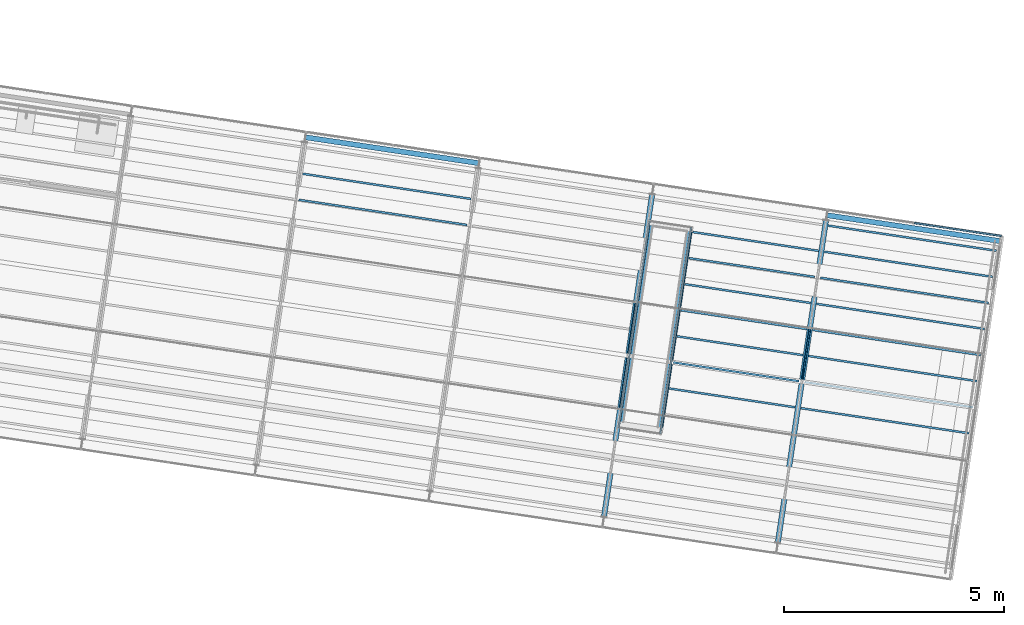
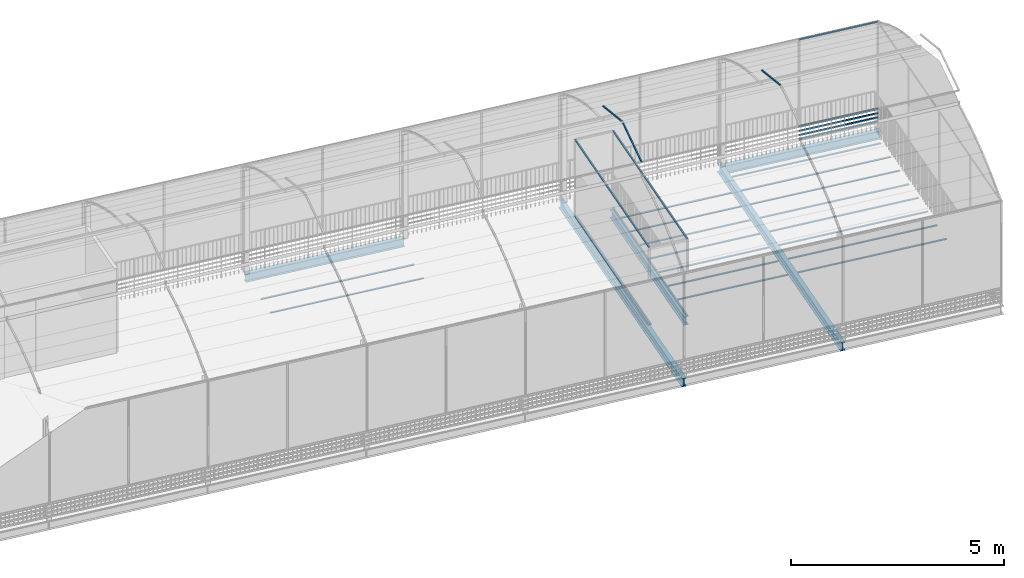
# One storey, part 13 of 34: 23 beams, 13 members, 1 element without a shape of its own.
"""IFC4 building model written with IfcOpenShell, lengths in metres."""

from ifc_helpers import new_model, si_unit, direction, frame, origin_with_axes, place, context, subcontext, project, spatial, polyline, rectangle, i_section, outline, extrude, material, material_profile, profile_set, profile_usage, type_object, element, aggregate, save


model = new_model("IFC4")

# Units and contexts
model_context = context("Model", 3, precision=1e-05, world=origin_with_axes(), true_north=direction((0.0, 1.0)))
body_context = subcontext(model_context, "Body", "Model", "MODEL_VIEW")
ifc_project = project(units=[si_unit("VOLUMEUNIT", "CUBIC_METRE"), si_unit("LENGTHUNIT", "METRE"), si_unit("AREAUNIT", "SQUARE_METRE")], contexts=[model_context])

# Site, building, storey
site_placement = place(None, origin_with_axes())
site = spatial("IfcSite", under=ifc_project, at=site_placement, Name="Lares · Rua das Mercês · artigo 4771")
building_placement = place(site_placement, frame((12.0, 10.2, 13.9), z_axis=(0.0, 0.0, 1.0), x_axis=(0.989015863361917, -0.147809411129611, 0.0)))
building = spatial("IfcBuilding", under=site, at=building_placement, Name="Casa Sobreposta")
storey_placement = place(building_placement, frame((0.0, 0.0, 3.24), z_axis=(0.0, 0.0, 1.0), x_axis=(1.0, 0.0, 0.0)))
storey = spatial("IfcBuildingStorey", under=building, at=storey_placement, Name="01 · Jardim de inverno", Elevation=17.14)

# Beams
ifc_material_1 = material(Name="Aço pintado / Stahl lackiert", Category="steel")
ifc_material_profile_1 = material_profile(ifc_material_1, i_section(OverallWidth=0.12, OverallDepth=0.24, WebThickness=0.0062, FlangeThickness=0.0098))
ifc_profile_set_1 = profile_set([ifc_material_profile_1], Name="IPE240")
ifc_profile_usage_1 = profile_usage(ifc_profile_set_1)
beam_type = type_object("IfcBeamType", Name="IPE240 / steel", PredefinedType="NOTDEFINED", material=ifc_profile_set_1)
beam_1_placement = place(storey_placement, frame((16.0, 6.28, -0.152), z_axis=(1.0, 0.0, 0.0), x_axis=(0.0, -1.0, 0.0)))
element("IfcBeam", 1, at=beam_1_placement, inside=storey, type_object=beam_type, material=ifc_profile_usage_1, Name="Viga longitudinal 16 / 6.28", context=body_context, shape_type="SweptSolid", body=[
    extrude(i_section(OverallWidth=0.12, OverallDepth=0.24, WebThickness=0.0062, FlangeThickness=0.0098), origin_with_axes(), (0.0, 0.0, 1.0), 4.0),
])
ifc_profile_usage_2 = profile_usage(ifc_profile_set_1)
beam_2_placement = place(storey_placement, frame((28.0, 6.28, -0.152), z_axis=(1.0, 0.0, 0.0), x_axis=(0.0, -1.0, 0.0)))
element("IfcBeam", 2, at=beam_2_placement, inside=storey, type_object=beam_type, material=ifc_profile_usage_2, Name="Viga longitudinal 28 / 6.28", context=body_context, shape_type="SweptSolid", body=[
    extrude(i_section(OverallWidth=0.12, OverallDepth=0.24, WebThickness=0.0062, FlangeThickness=0.0098), origin_with_axes(), (0.0, 0.0, 1.0), 4.0),
])
ifc_profile_usage_3 = profile_usage(ifc_profile_set_1)
beam_3_placement = place(storey_placement, frame((24.0, -1.5, -0.152), z_axis=(0.0, 1.0, 0.0), x_axis=(1.0, 0.0, 0.0)))
element("IfcBeam", 3, at=beam_3_placement, inside=storey, type_object=beam_type, material=ifc_profile_usage_3, Name="Viga transversal eixo 24", context=body_context, shape_type="SweptSolid", body=[
    extrude(i_section(OverallWidth=0.12, OverallDepth=0.24, WebThickness=0.0062, FlangeThickness=0.0098), origin_with_axes(), (0.0, 0.0, 1.0), 7.9),
])
ifc_profile_usage_4 = profile_usage(ifc_profile_set_1)
beam_4_placement = place(storey_placement, frame((28.0, -1.5, -0.152), z_axis=(0.0, 1.0, 0.0), x_axis=(1.0, 0.0, 0.0)))
element("IfcBeam", 4, at=beam_4_placement, inside=storey, type_object=beam_type, material=ifc_profile_usage_4, Name="Viga transversal eixo 28", context=body_context, shape_type="SweptSolid", body=[
    extrude(i_section(OverallWidth=0.12, OverallDepth=0.24, WebThickness=0.0062, FlangeThickness=0.0098), origin_with_axes(), (0.0, 0.0, 1.0), 7.9),
])
ifc_profile_usage_5 = profile_usage(ifc_profile_set_1)
beam_5_placement = place(storey_placement, frame((24.05, 0.8275, -0.152), z_axis=(0.0, 1.0, 0.0), x_axis=(1.0, 0.0, 0.0)))
element("IfcBeam", 5, at=beam_5_placement, inside=storey, type_object=beam_type, material=ifc_profile_usage_5, Name="Longarina do vão 2", context=body_context, shape_type="SweptSolid", body=[
    extrude(i_section(OverallWidth=0.12, OverallDepth=0.24, WebThickness=0.0062, FlangeThickness=0.0098), origin_with_axes(), (0.0, 0.0, 1.0), 4.745),
])
ifc_profile_usage_6 = profile_usage(ifc_profile_set_1)
beam_6_placement = place(storey_placement, frame((24.97, 0.8275, -0.152), z_axis=(0.0, 1.0, 0.0), x_axis=(1.0, 0.0, 0.0)))
element("IfcBeam", 6, at=beam_6_placement, inside=storey, type_object=beam_type, material=ifc_profile_usage_6, Name="Longarina do vão 2", context=body_context, shape_type="SweptSolid", body=[
    extrude(i_section(OverallWidth=0.12, OverallDepth=0.24, WebThickness=0.0062, FlangeThickness=0.0098), origin_with_axes(), (0.0, 0.0, 1.0), 4.745),
])

# Members
ifc_material_profile_2 = material_profile(ifc_material_1, rectangle(XDim=0.035, YDim=0.035))
ifc_profile_set_2 = profile_set([ifc_material_profile_2], Name="R0.035")
ifc_profile_usage_7 = profile_usage(ifc_profile_set_2)
member_type = type_object("IfcMemberType", Name="R0.035 / steel", PredefinedType="NOTDEFINED", material=ifc_profile_set_2)
member_1_placement = place(storey_placement, frame((30.0, 6.4, 0.5), z_axis=(1.0, 0.0, 0.0), x_axis=(0.0, -1.0, 0.0)))
element("IfcMember", 7, at=member_1_placement, inside=storey, type_object=member_type, material=ifc_profile_usage_7, Name="Estufa norte 16 · travessa", context=body_context, shape_type="SweptSolid", body=[
    extrude(rectangle(XDim=0.035, YDim=0.035), origin_with_axes(), (0.0, 0.0, 1.0), 2.0),
])
ifc_profile_usage_8 = profile_usage(ifc_profile_set_2)
member_2_placement = place(storey_placement, frame((30.0, 6.4, 2.98), z_axis=(1.0, 0.0, 0.0), x_axis=(0.0, -1.0, 0.0)))
element("IfcMember", 8, at=member_2_placement, inside=storey, type_object=member_type, material=ifc_profile_usage_8, Name="Estufa norte 16 · travessa", context=body_context, shape_type="SweptSolid", body=[
    extrude(rectangle(XDim=0.035, YDim=0.035), origin_with_axes(), (0.0, 0.0, 1.0), 2.0),
])
ifc_profile_usage_9 = profile_usage(ifc_profile_set_2)
member_3_placement = place(storey_placement, frame((30.0, 6.4, 0.12), z_axis=(1.0, 0.0, 0.0), x_axis=(0.0, -1.0, 0.0)))
element("IfcMember", 9, at=member_3_placement, inside=storey, type_object=member_type, material=ifc_profile_usage_9, Name="Entrada de ar norte 16", context=body_context, shape_type="SweptSolid", body=[
    extrude(rectangle(XDim=0.035, YDim=0.035), origin_with_axes(), (0.0, 0.0, 1.0), 2.0),
])
ifc_profile_usage_10 = profile_usage(ifc_profile_set_2)
member_4_placement = place(storey_placement, frame((30.0, 6.4, 0.24), z_axis=(1.0, 0.0, 0.0), x_axis=(0.0, -1.0, 0.0)))
element("IfcMember", 10, at=member_4_placement, inside=storey, type_object=member_type, material=ifc_profile_usage_10, Name="Entrada de ar norte 16", context=body_context, shape_type="SweptSolid", body=[
    extrude(rectangle(XDim=0.035, YDim=0.035), origin_with_axes(), (0.0, 0.0, 1.0), 2.0),
])
ifc_profile_usage_11 = profile_usage(ifc_profile_set_2)
member_5_placement = place(storey_placement, frame((30.0, 6.4, 0.36), z_axis=(1.0, 0.0, 0.0), x_axis=(0.0, -1.0, 0.0)))
element("IfcMember", 11, at=member_5_placement, inside=storey, type_object=member_type, material=ifc_profile_usage_11, Name="Entrada de ar norte 16", context=body_context, shape_type="SweptSolid", body=[
    extrude(rectangle(XDim=0.035, YDim=0.035), origin_with_axes(), (0.0, 0.0, 1.0), 2.0),
])
ifc_profile_usage_12 = profile_usage(ifc_profile_set_2)
member_6_placement = place(storey_placement, frame((30.0, 6.4, 0.48), z_axis=(1.0, 0.0, 0.0), x_axis=(0.0, -1.0, 0.0)))
element("IfcMember", 12, at=member_6_placement, inside=storey, type_object=member_type, material=ifc_profile_usage_12, Name="Entrada de ar norte 16", context=body_context, shape_type="SweptSolid", body=[
    extrude(rectangle(XDim=0.035, YDim=0.035), origin_with_axes(), (0.0, 0.0, 1.0), 2.0),
])

# Roof, members
ifc_material_2 = material(Name="Vidro / Normalglas", Category="glass")
roof_placement = place(storey_placement, frame((0.0, 0.0, -3.24), z_axis=(0.0, 0.0, 1.0), x_axis=(1.0, 0.0, 0.0)))
roof = element("IfcRoof", 13, at=roof_placement, inside=storey, material=ifc_material_2, Name="Cobertura translúcida da estufa", PredefinedType="BARREL_ROOF")
ifc_profile_usage_13 = profile_usage(ifc_profile_set_2)
member_7_placement = place(roof_placement, frame((24.0, 1.22042020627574, 7.62067689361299), z_axis=(0.0, 0.960073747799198, 0.279747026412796), x_axis=(1.0, 0.0, 0.0)))
member_7 = element("IfcMember", 14, at=member_7_placement, type_object=member_type, material=ifc_profile_usage_13, Name="Arco estufa 24/7", context=body_context, shape_type="SweptSolid", body=[
    extrude(rectangle(XDim=0.035, YDim=0.035), origin_with_axes(), (0.0, 0.0, 1.0), 1.23148937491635),
])
ifc_profile_usage_14 = profile_usage(ifc_profile_set_2)
member_8_placement = place(roof_placement, frame((24.0, 2.49770027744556, 7.96518238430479), z_axis=(0.0, 0.96007374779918, -0.279747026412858), x_axis=(1.0, 0.0, 0.0)))
member_8 = element("IfcMember", 15, at=member_8_placement, type_object=member_type, material=ifc_profile_usage_14, Name="Arco estufa 24/9", context=body_context, shape_type="SweptSolid", body=[
    extrude(rectangle(XDim=0.035, YDim=0.035), origin_with_axes(), (0.0, 0.0, 1.0), 1.23148937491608),
])
ifc_profile_usage_15 = profile_usage(ifc_profile_set_2)
member_9_placement = place(roof_placement, frame((28.0, 2.49770027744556, 7.96518238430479), z_axis=(0.0, 0.96007374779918, -0.279747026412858), x_axis=(1.0, 0.0, 0.0)))
member_9 = element("IfcMember", 16, at=member_9_placement, type_object=member_type, material=ifc_profile_usage_15, Name="Arco estufa 28/9", context=body_context, shape_type="SweptSolid", body=[
    extrude(rectangle(XDim=0.035, YDim=0.035), origin_with_axes(), (0.0, 0.0, 1.0), 1.23148937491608),
])
aggregate(roof, [member_7, member_8, member_9])

# Members
ifc_profile_usage_16 = profile_usage(ifc_profile_set_2)
member_10_placement = place(storey_placement, frame((24.03, 0.8, 0.0), z_axis=(0.0, 1.0, 0.0), x_axis=(1.0, 0.0, 0.0)))
element("IfcMember", 17, at=member_10_placement, inside=storey, type_object=member_type, material=ifc_profile_usage_16, Name="Caixa térmica 2 · west · travessa", context=body_context, shape_type="SweptSolid", body=[
    extrude(rectangle(XDim=0.035, YDim=0.035), origin_with_axes(), (0.0, 0.0, 1.0), 4.75),
])
ifc_profile_usage_17 = profile_usage(ifc_profile_set_2)
member_11_placement = place(storey_placement, frame((24.03, 0.8, 2.2), z_axis=(0.0, 1.0, 0.0), x_axis=(1.0, 0.0, 0.0)))
element("IfcMember", 18, at=member_11_placement, inside=storey, type_object=member_type, material=ifc_profile_usage_17, Name="Caixa térmica 2 · west · travessa", context=body_context, shape_type="SweptSolid", body=[
    extrude(rectangle(XDim=0.035, YDim=0.035), origin_with_axes(), (0.0, 0.0, 1.0), 4.75),
])
ifc_profile_usage_18 = profile_usage(ifc_profile_set_2)
member_12_placement = place(storey_placement, frame((24.99, 0.8, 0.0), z_axis=(0.0, 1.0, 0.0), x_axis=(1.0, 0.0, 0.0)))
element("IfcMember", 19, at=member_12_placement, inside=storey, type_object=member_type, material=ifc_profile_usage_18, Name="Caixa térmica 2 · east · travessa", context=body_context, shape_type="SweptSolid", body=[
    extrude(rectangle(XDim=0.035, YDim=0.035), origin_with_axes(), (0.0, 0.0, 1.0), 4.75),
])
ifc_profile_usage_19 = profile_usage(ifc_profile_set_2)
member_13_placement = place(storey_placement, frame((24.99, 0.8, 2.2), z_axis=(0.0, 1.0, 0.0), x_axis=(1.0, 0.0, 0.0)))
element("IfcMember", 20, at=member_13_placement, inside=storey, type_object=member_type, material=ifc_profile_usage_19, Name="Caixa térmica 2 · east · travessa", context=body_context, shape_type="SweptSolid", body=[
    extrude(rectangle(XDim=0.035, YDim=0.035), origin_with_axes(), (0.0, 0.0, 1.0), 4.75),
])

# Beams
ifc_material_3 = material(Name="Madeira / Bauholz", Category="wood")
ifc_material_profile_3 = material_profile(ifc_material_3, outline(polyline([(0.022225, -0.12), (0.022225, -0.092), (-0.022225, -0.092), (-0.022225, -0.12), (0.022225, -0.12)])))
ifc_material_4 = material(Name="OSB", Category="wood")
ifc_material_profile_4 = material_profile(ifc_material_4, outline(polyline([(0.0047625, -0.092), (0.0047625, 0.092), (-0.0047625, 0.092), (-0.0047625, -0.092), (0.0047625, -0.092)])))
ifc_material_profile_5 = material_profile(ifc_material_3, outline(polyline([(0.022225, 0.092), (0.022225, 0.12), (-0.022225, 0.12), (-0.022225, 0.092), (0.022225, 0.092)])))
ifc_profile_set_3 = profile_set([ifc_material_profile_3, ifc_material_profile_4, ifc_material_profile_5], Name="TJI240 · madeira / OSB")
ifc_profile_usage_20 = profile_usage(ifc_profile_set_3)
beam_7_placement = place(storey_placement, frame((25.04, 1.85, -0.152), z_axis=(1.0, 0.0, 0.0), x_axis=(0.0, 1.0, 0.0)))
element("IfcBeam", 21, at=beam_7_placement, inside=storey, material=ifc_profile_usage_20, Name="TJI240 · 25.040 / 1.85", context=body_context, shape_type="SweptSolid", body=[
    extrude(outline(polyline([(0.022225, -0.12), (0.022225, -0.092), (-0.022225, -0.092), (-0.022225, -0.12), (0.022225, -0.12)])), origin_with_axes(), (0.0, 0.0, 1.0), 2.895),
    extrude(outline(polyline([(0.022225, -0.12), (0.022225, -0.092), (-0.022225, -0.092), (-0.022225, -0.12), (0.022225, -0.12)])), origin_with_axes(), (0.0, 0.0, 1.0), 2.895),
    extrude(outline(polyline([(0.022225, -0.12), (0.022225, -0.092), (-0.022225, -0.092), (-0.022225, -0.12), (0.022225, -0.12)])), origin_with_axes(), (0.0, 0.0, 1.0), 2.895),
])
ifc_material_profile_6 = material_profile(ifc_material_3, outline(polyline([(0.022225, -0.12), (0.022225, -0.092), (-0.022225, -0.092), (-0.022225, -0.12), (0.022225, -0.12)])))
ifc_material_profile_7 = material_profile(ifc_material_4, outline(polyline([(0.0047625, -0.092), (0.0047625, 0.092), (-0.0047625, 0.092), (-0.0047625, -0.092), (0.0047625, -0.092)])))
ifc_material_profile_8 = material_profile(ifc_material_3, outline(polyline([(0.022225, 0.092), (0.022225, 0.12), (-0.022225, 0.12), (-0.022225, 0.092), (0.022225, 0.092)])))
ifc_profile_set_4 = profile_set([ifc_material_profile_6, ifc_material_profile_7, ifc_material_profile_8], Name="TJI240 · madeira / OSB")
ifc_profile_usage_21 = profile_usage(ifc_profile_set_4)
beam_8_placement = place(storey_placement, frame((28.065, 1.85, -0.152), z_axis=(1.0, 0.0, 0.0), x_axis=(0.0, 1.0, 0.0)))
element("IfcBeam", 22, at=beam_8_placement, inside=storey, material=ifc_profile_usage_21, Name="TJI240 · 28.065 / 1.85", context=body_context, shape_type="SweptSolid", body=[
    extrude(outline(polyline([(0.022225, -0.12), (0.022225, -0.092), (-0.022225, -0.092), (-0.022225, -0.12), (0.022225, -0.12)])), origin_with_axes(), (0.0, 0.0, 1.0), 3.87),
    extrude(outline(polyline([(0.022225, -0.12), (0.022225, -0.092), (-0.022225, -0.092), (-0.022225, -0.12), (0.022225, -0.12)])), origin_with_axes(), (0.0, 0.0, 1.0), 3.87),
    extrude(outline(polyline([(0.022225, -0.12), (0.022225, -0.092), (-0.022225, -0.092), (-0.022225, -0.12), (0.022225, -0.12)])), origin_with_axes(), (0.0, 0.0, 1.0), 3.87),
])
ifc_material_profile_9 = material_profile(ifc_material_3, outline(polyline([(0.022225, -0.12), (0.022225, -0.092), (-0.022225, -0.092), (-0.022225, -0.12), (0.022225, -0.12)])))
ifc_material_profile_10 = material_profile(ifc_material_4, outline(polyline([(0.0047625, -0.092), (0.0047625, 0.092), (-0.0047625, 0.092), (-0.0047625, -0.092), (0.0047625, -0.092)])))
ifc_material_profile_11 = material_profile(ifc_material_3, outline(polyline([(0.022225, 0.092), (0.022225, 0.12), (-0.022225, 0.12), (-0.022225, 0.092), (0.022225, 0.092)])))
ifc_profile_set_5 = profile_set([ifc_material_profile_9, ifc_material_profile_10, ifc_material_profile_11], Name="TJI240 · madeira / OSB")
ifc_profile_usage_22 = profile_usage(ifc_profile_set_5)
beam_9_placement = place(storey_placement, frame((25.04, 2.45, -0.152), z_axis=(1.0, 0.0, 0.0), x_axis=(0.0, 1.0, 0.0)))
element("IfcBeam", 23, at=beam_9_placement, inside=storey, material=ifc_profile_usage_22, Name="TJI240 · 25.040 / 2.45", context=body_context, shape_type="SweptSolid", body=[
    extrude(outline(polyline([(0.022225, -0.12), (0.022225, -0.092), (-0.022225, -0.092), (-0.022225, -0.12), (0.022225, -0.12)])), origin_with_axes(), (0.0, 0.0, 1.0), 2.895),
    extrude(outline(polyline([(0.022225, -0.12), (0.022225, -0.092), (-0.022225, -0.092), (-0.022225, -0.12), (0.022225, -0.12)])), origin_with_axes(), (0.0, 0.0, 1.0), 2.895),
    extrude(outline(polyline([(0.022225, -0.12), (0.022225, -0.092), (-0.022225, -0.092), (-0.022225, -0.12), (0.022225, -0.12)])), origin_with_axes(), (0.0, 0.0, 1.0), 2.895),
])
ifc_material_profile_12 = material_profile(ifc_material_3, outline(polyline([(0.022225, -0.12), (0.022225, -0.092), (-0.022225, -0.092), (-0.022225, -0.12), (0.022225, -0.12)])))
ifc_material_profile_13 = material_profile(ifc_material_4, outline(polyline([(0.0047625, -0.092), (0.0047625, 0.092), (-0.0047625, 0.092), (-0.0047625, -0.092), (0.0047625, -0.092)])))
ifc_material_profile_14 = material_profile(ifc_material_3, outline(polyline([(0.022225, 0.092), (0.022225, 0.12), (-0.022225, 0.12), (-0.022225, 0.092), (0.022225, 0.092)])))
ifc_profile_set_6 = profile_set([ifc_material_profile_12, ifc_material_profile_13, ifc_material_profile_14], Name="TJI240 · madeira / OSB")
ifc_profile_usage_23 = profile_usage(ifc_profile_set_6)
beam_10_placement = place(storey_placement, frame((28.065, 2.45, -0.152), z_axis=(1.0, 0.0, 0.0), x_axis=(0.0, 1.0, 0.0)))
element("IfcBeam", 24, at=beam_10_placement, inside=storey, material=ifc_profile_usage_23, Name="TJI240 · 28.065 / 2.45", context=body_context, shape_type="SweptSolid", body=[
    extrude(outline(polyline([(0.022225, -0.12), (0.022225, -0.092), (-0.022225, -0.092), (-0.022225, -0.12), (0.022225, -0.12)])), origin_with_axes(), (0.0, 0.0, 1.0), 3.87),
    extrude(outline(polyline([(0.022225, -0.12), (0.022225, -0.092), (-0.022225, -0.092), (-0.022225, -0.12), (0.022225, -0.12)])), origin_with_axes(), (0.0, 0.0, 1.0), 3.87),
    extrude(outline(polyline([(0.022225, -0.12), (0.022225, -0.092), (-0.022225, -0.092), (-0.022225, -0.12), (0.022225, -0.12)])), origin_with_axes(), (0.0, 0.0, 1.0), 3.87),
])
ifc_material_profile_15 = material_profile(ifc_material_3, outline(polyline([(0.022225, -0.12), (0.022225, -0.092), (-0.022225, -0.092), (-0.022225, -0.12), (0.022225, -0.12)])))
ifc_material_profile_16 = material_profile(ifc_material_4, outline(polyline([(0.0047625, -0.092), (0.0047625, 0.092), (-0.0047625, 0.092), (-0.0047625, -0.092), (0.0047625, -0.092)])))
ifc_material_profile_17 = material_profile(ifc_material_3, outline(polyline([(0.022225, 0.092), (0.022225, 0.12), (-0.022225, 0.12), (-0.022225, 0.092), (0.022225, 0.092)])))
ifc_profile_set_7 = profile_set([ifc_material_profile_15, ifc_material_profile_16, ifc_material_profile_17], Name="TJI240 · madeira / OSB")
ifc_profile_usage_24 = profile_usage(ifc_profile_set_7)
beam_11_placement = place(storey_placement, frame((25.04, 3.05, -0.152), z_axis=(1.0, 0.0, 0.0), x_axis=(0.0, 1.0, 0.0)))
element("IfcBeam", 25, at=beam_11_placement, inside=storey, material=ifc_profile_usage_24, Name="TJI240 · 25.040 / 3.05", context=body_context, shape_type="SweptSolid", body=[
    extrude(outline(polyline([(0.022225, -0.12), (0.022225, -0.092), (-0.022225, -0.092), (-0.022225, -0.12), (0.022225, -0.12)])), origin_with_axes(), (0.0, 0.0, 1.0), 2.895),
    extrude(outline(polyline([(0.022225, -0.12), (0.022225, -0.092), (-0.022225, -0.092), (-0.022225, -0.12), (0.022225, -0.12)])), origin_with_axes(), (0.0, 0.0, 1.0), 2.895),
    extrude(outline(polyline([(0.022225, -0.12), (0.022225, -0.092), (-0.022225, -0.092), (-0.022225, -0.12), (0.022225, -0.12)])), origin_with_axes(), (0.0, 0.0, 1.0), 2.895),
])
ifc_material_profile_18 = material_profile(ifc_material_3, outline(polyline([(0.022225, -0.12), (0.022225, -0.092), (-0.022225, -0.092), (-0.022225, -0.12), (0.022225, -0.12)])))
ifc_material_profile_19 = material_profile(ifc_material_4, outline(polyline([(0.0047625, -0.092), (0.0047625, 0.092), (-0.0047625, 0.092), (-0.0047625, -0.092), (0.0047625, -0.092)])))
ifc_material_profile_20 = material_profile(ifc_material_3, outline(polyline([(0.022225, 0.092), (0.022225, 0.12), (-0.022225, 0.12), (-0.022225, 0.092), (0.022225, 0.092)])))
ifc_profile_set_8 = profile_set([ifc_material_profile_18, ifc_material_profile_19, ifc_material_profile_20], Name="TJI240 · madeira / OSB")
ifc_profile_usage_25 = profile_usage(ifc_profile_set_8)
beam_12_placement = place(storey_placement, frame((28.065, 3.05, -0.152), z_axis=(1.0, 0.0, 0.0), x_axis=(0.0, 1.0, 0.0)))
element("IfcBeam", 26, at=beam_12_placement, inside=storey, material=ifc_profile_usage_25, Name="TJI240 · 28.065 / 3.05", context=body_context, shape_type="SweptSolid", body=[
    extrude(outline(polyline([(0.022225, -0.12), (0.022225, -0.092), (-0.022225, -0.092), (-0.022225, -0.12), (0.022225, -0.12)])), origin_with_axes(), (0.0, 0.0, 1.0), 3.87),
    extrude(outline(polyline([(0.022225, -0.12), (0.022225, -0.092), (-0.022225, -0.092), (-0.022225, -0.12), (0.022225, -0.12)])), origin_with_axes(), (0.0, 0.0, 1.0), 3.87),
    extrude(outline(polyline([(0.022225, -0.12), (0.022225, -0.092), (-0.022225, -0.092), (-0.022225, -0.12), (0.022225, -0.12)])), origin_with_axes(), (0.0, 0.0, 1.0), 3.87),
])
ifc_material_profile_21 = material_profile(ifc_material_3, outline(polyline([(0.022225, -0.12), (0.022225, -0.092), (-0.022225, -0.092), (-0.022225, -0.12), (0.022225, -0.12)])))
ifc_material_profile_22 = material_profile(ifc_material_4, outline(polyline([(0.0047625, -0.092), (0.0047625, 0.092), (-0.0047625, 0.092), (-0.0047625, -0.092), (0.0047625, -0.092)])))
ifc_material_profile_23 = material_profile(ifc_material_3, outline(polyline([(0.022225, 0.092), (0.022225, 0.12), (-0.022225, 0.12), (-0.022225, 0.092), (0.022225, 0.092)])))
ifc_profile_set_9 = profile_set([ifc_material_profile_21, ifc_material_profile_22, ifc_material_profile_23], Name="TJI240 · madeira / OSB")
ifc_profile_usage_26 = profile_usage(ifc_profile_set_9)
beam_13_placement = place(storey_placement, frame((25.04, 3.65, -0.152), z_axis=(1.0, 0.0, 0.0), x_axis=(0.0, 1.0, 0.0)))
element("IfcBeam", 27, at=beam_13_placement, inside=storey, material=ifc_profile_usage_26, Name="TJI240 · 25.040 / 3.65", context=body_context, shape_type="SweptSolid", body=[
    extrude(outline(polyline([(0.022225, -0.12), (0.022225, -0.092), (-0.022225, -0.092), (-0.022225, -0.12), (0.022225, -0.12)])), origin_with_axes(), (0.0, 0.0, 1.0), 2.895),
    extrude(outline(polyline([(0.022225, -0.12), (0.022225, -0.092), (-0.022225, -0.092), (-0.022225, -0.12), (0.022225, -0.12)])), origin_with_axes(), (0.0, 0.0, 1.0), 2.895),
    extrude(outline(polyline([(0.022225, -0.12), (0.022225, -0.092), (-0.022225, -0.092), (-0.022225, -0.12), (0.022225, -0.12)])), origin_with_axes(), (0.0, 0.0, 1.0), 2.895),
])
ifc_material_profile_24 = material_profile(ifc_material_3, outline(polyline([(0.022225, -0.12), (0.022225, -0.092), (-0.022225, -0.092), (-0.022225, -0.12), (0.022225, -0.12)])))
ifc_material_profile_25 = material_profile(ifc_material_4, outline(polyline([(0.0047625, -0.092), (0.0047625, 0.092), (-0.0047625, 0.092), (-0.0047625, -0.092), (0.0047625, -0.092)])))
ifc_material_profile_26 = material_profile(ifc_material_3, outline(polyline([(0.022225, 0.092), (0.022225, 0.12), (-0.022225, 0.12), (-0.022225, 0.092), (0.022225, 0.092)])))
ifc_profile_set_10 = profile_set([ifc_material_profile_24, ifc_material_profile_25, ifc_material_profile_26], Name="TJI240 · madeira / OSB")
ifc_profile_usage_27 = profile_usage(ifc_profile_set_10)
beam_14_placement = place(storey_placement, frame((28.065, 3.65, -0.152), z_axis=(1.0, 0.0, 0.0), x_axis=(0.0, 1.0, 0.0)))
element("IfcBeam", 28, at=beam_14_placement, inside=storey, material=ifc_profile_usage_27, Name="TJI240 · 28.065 / 3.65", context=body_context, shape_type="SweptSolid", body=[
    extrude(outline(polyline([(0.022225, -0.12), (0.022225, -0.092), (-0.022225, -0.092), (-0.022225, -0.12), (0.022225, -0.12)])), origin_with_axes(), (0.0, 0.0, 1.0), 3.87),
    extrude(outline(polyline([(0.022225, -0.12), (0.022225, -0.092), (-0.022225, -0.092), (-0.022225, -0.12), (0.022225, -0.12)])), origin_with_axes(), (0.0, 0.0, 1.0), 3.87),
    extrude(outline(polyline([(0.022225, -0.12), (0.022225, -0.092), (-0.022225, -0.092), (-0.022225, -0.12), (0.022225, -0.12)])), origin_with_axes(), (0.0, 0.0, 1.0), 3.87),
])
ifc_material_profile_27 = material_profile(ifc_material_3, outline(polyline([(0.022225, -0.12), (0.022225, -0.092), (-0.022225, -0.092), (-0.022225, -0.12), (0.022225, -0.12)])))
ifc_material_profile_28 = material_profile(ifc_material_4, outline(polyline([(0.0047625, -0.092), (0.0047625, 0.092), (-0.0047625, 0.092), (-0.0047625, -0.092), (0.0047625, -0.092)])))
ifc_material_profile_29 = material_profile(ifc_material_3, outline(polyline([(0.022225, 0.092), (0.022225, 0.12), (-0.022225, 0.12), (-0.022225, 0.092), (0.022225, 0.092)])))
ifc_profile_set_11 = profile_set([ifc_material_profile_27, ifc_material_profile_28, ifc_material_profile_29], Name="TJI240 · madeira / OSB")
ifc_profile_usage_28 = profile_usage(ifc_profile_set_11)
beam_15_placement = place(storey_placement, frame((25.04, 4.25, -0.152), z_axis=(1.0, 0.0, 0.0), x_axis=(0.0, 1.0, 0.0)))
element("IfcBeam", 29, at=beam_15_placement, inside=storey, material=ifc_profile_usage_28, Name="TJI240 · 25.040 / 4.25", context=body_context, shape_type="SweptSolid", body=[
    extrude(outline(polyline([(0.022225, -0.12), (0.022225, -0.092), (-0.022225, -0.092), (-0.022225, -0.12), (0.022225, -0.12)])), origin_with_axes(), (0.0, 0.0, 1.0), 2.895),
    extrude(outline(polyline([(0.022225, -0.12), (0.022225, -0.092), (-0.022225, -0.092), (-0.022225, -0.12), (0.022225, -0.12)])), origin_with_axes(), (0.0, 0.0, 1.0), 2.895),
    extrude(outline(polyline([(0.022225, -0.12), (0.022225, -0.092), (-0.022225, -0.092), (-0.022225, -0.12), (0.022225, -0.12)])), origin_with_axes(), (0.0, 0.0, 1.0), 2.895),
])
ifc_material_profile_30 = material_profile(ifc_material_3, outline(polyline([(0.022225, -0.12), (0.022225, -0.092), (-0.022225, -0.092), (-0.022225, -0.12), (0.022225, -0.12)])))
ifc_material_profile_31 = material_profile(ifc_material_4, outline(polyline([(0.0047625, -0.092), (0.0047625, 0.092), (-0.0047625, 0.092), (-0.0047625, -0.092), (0.0047625, -0.092)])))
ifc_material_profile_32 = material_profile(ifc_material_3, outline(polyline([(0.022225, 0.092), (0.022225, 0.12), (-0.022225, 0.12), (-0.022225, 0.092), (0.022225, 0.092)])))
ifc_profile_set_12 = profile_set([ifc_material_profile_30, ifc_material_profile_31, ifc_material_profile_32], Name="TJI240 · madeira / OSB")
ifc_profile_usage_29 = profile_usage(ifc_profile_set_12)
beam_16_placement = place(storey_placement, frame((28.065, 4.25, -0.152), z_axis=(1.0, 0.0, 0.0), x_axis=(0.0, 1.0, 0.0)))
element("IfcBeam", 30, at=beam_16_placement, inside=storey, material=ifc_profile_usage_29, Name="TJI240 · 28.065 / 4.25", context=body_context, shape_type="SweptSolid", body=[
    extrude(outline(polyline([(0.022225, -0.12), (0.022225, -0.092), (-0.022225, -0.092), (-0.022225, -0.12), (0.022225, -0.12)])), origin_with_axes(), (0.0, 0.0, 1.0), 3.87),
    extrude(outline(polyline([(0.022225, -0.12), (0.022225, -0.092), (-0.022225, -0.092), (-0.022225, -0.12), (0.022225, -0.12)])), origin_with_axes(), (0.0, 0.0, 1.0), 3.87),
    extrude(outline(polyline([(0.022225, -0.12), (0.022225, -0.092), (-0.022225, -0.092), (-0.022225, -0.12), (0.022225, -0.12)])), origin_with_axes(), (0.0, 0.0, 1.0), 3.87),
])
ifc_material_profile_33 = material_profile(ifc_material_3, outline(polyline([(0.022225, -0.12), (0.022225, -0.092), (-0.022225, -0.092), (-0.022225, -0.12), (0.022225, -0.12)])))
ifc_material_profile_34 = material_profile(ifc_material_4, outline(polyline([(0.0047625, -0.092), (0.0047625, 0.092), (-0.0047625, 0.092), (-0.0047625, -0.092), (0.0047625, -0.092)])))
ifc_material_profile_35 = material_profile(ifc_material_3, outline(polyline([(0.022225, 0.092), (0.022225, 0.12), (-0.022225, 0.12), (-0.022225, 0.092), (0.022225, 0.092)])))
ifc_profile_set_13 = profile_set([ifc_material_profile_33, ifc_material_profile_34, ifc_material_profile_35], Name="TJI240 · madeira / OSB")
ifc_profile_usage_30 = profile_usage(ifc_profile_set_13)
beam_17_placement = place(storey_placement, frame((16.065, 4.85, -0.152), z_axis=(1.0, 0.0, 0.0), x_axis=(0.0, 1.0, 0.0)))
element("IfcBeam", 31, at=beam_17_placement, inside=storey, material=ifc_profile_usage_30, Name="TJI240 · 16.065 / 4.85", context=body_context, shape_type="SweptSolid", body=[
    extrude(outline(polyline([(0.022225, -0.12), (0.022225, -0.092), (-0.022225, -0.092), (-0.022225, -0.12), (0.022225, -0.12)])), origin_with_axes(), (0.0, 0.0, 1.0), 3.87),
    extrude(outline(polyline([(0.022225, -0.12), (0.022225, -0.092), (-0.022225, -0.092), (-0.022225, -0.12), (0.022225, -0.12)])), origin_with_axes(), (0.0, 0.0, 1.0), 3.87),
    extrude(outline(polyline([(0.022225, -0.12), (0.022225, -0.092), (-0.022225, -0.092), (-0.022225, -0.12), (0.022225, -0.12)])), origin_with_axes(), (0.0, 0.0, 1.0), 3.87),
])
ifc_material_profile_36 = material_profile(ifc_material_3, outline(polyline([(0.022225, -0.12), (0.022225, -0.092), (-0.022225, -0.092), (-0.022225, -0.12), (0.022225, -0.12)])))
ifc_material_profile_37 = material_profile(ifc_material_4, outline(polyline([(0.0047625, -0.092), (0.0047625, 0.092), (-0.0047625, 0.092), (-0.0047625, -0.092), (0.0047625, -0.092)])))
ifc_material_profile_38 = material_profile(ifc_material_3, outline(polyline([(0.022225, 0.092), (0.022225, 0.12), (-0.022225, 0.12), (-0.022225, 0.092), (0.022225, 0.092)])))
ifc_profile_set_14 = profile_set([ifc_material_profile_36, ifc_material_profile_37, ifc_material_profile_38], Name="TJI240 · madeira / OSB")
ifc_profile_usage_31 = profile_usage(ifc_profile_set_14)
beam_18_placement = place(storey_placement, frame((25.04, 4.85, -0.152), z_axis=(1.0, 0.0, 0.0), x_axis=(0.0, 1.0, 0.0)))
element("IfcBeam", 32, at=beam_18_placement, inside=storey, material=ifc_profile_usage_31, Name="TJI240 · 25.040 / 4.85", context=body_context, shape_type="SweptSolid", body=[
    extrude(outline(polyline([(0.022225, -0.12), (0.022225, -0.092), (-0.022225, -0.092), (-0.022225, -0.12), (0.022225, -0.12)])), origin_with_axes(), (0.0, 0.0, 1.0), 2.895),
    extrude(outline(polyline([(0.022225, -0.12), (0.022225, -0.092), (-0.022225, -0.092), (-0.022225, -0.12), (0.022225, -0.12)])), origin_with_axes(), (0.0, 0.0, 1.0), 2.895),
    extrude(outline(polyline([(0.022225, -0.12), (0.022225, -0.092), (-0.022225, -0.092), (-0.022225, -0.12), (0.022225, -0.12)])), origin_with_axes(), (0.0, 0.0, 1.0), 2.895),
])
ifc_material_profile_39 = material_profile(ifc_material_3, outline(polyline([(0.022225, -0.12), (0.022225, -0.092), (-0.022225, -0.092), (-0.022225, -0.12), (0.022225, -0.12)])))
ifc_material_profile_40 = material_profile(ifc_material_4, outline(polyline([(0.0047625, -0.092), (0.0047625, 0.092), (-0.0047625, 0.092), (-0.0047625, -0.092), (0.0047625, -0.092)])))
ifc_material_profile_41 = material_profile(ifc_material_3, outline(polyline([(0.022225, 0.092), (0.022225, 0.12), (-0.022225, 0.12), (-0.022225, 0.092), (0.022225, 0.092)])))
ifc_profile_set_15 = profile_set([ifc_material_profile_39, ifc_material_profile_40, ifc_material_profile_41], Name="TJI240 · madeira / OSB")
ifc_profile_usage_32 = profile_usage(ifc_profile_set_15)
beam_19_placement = place(storey_placement, frame((28.065, 4.85, -0.152), z_axis=(1.0, 0.0, 0.0), x_axis=(0.0, 1.0, 0.0)))
element("IfcBeam", 33, at=beam_19_placement, inside=storey, material=ifc_profile_usage_32, Name="TJI240 · 28.065 / 4.85", context=body_context, shape_type="SweptSolid", body=[
    extrude(outline(polyline([(0.022225, -0.12), (0.022225, -0.092), (-0.022225, -0.092), (-0.022225, -0.12), (0.022225, -0.12)])), origin_with_axes(), (0.0, 0.0, 1.0), 3.87),
    extrude(outline(polyline([(0.022225, -0.12), (0.022225, -0.092), (-0.022225, -0.092), (-0.022225, -0.12), (0.022225, -0.12)])), origin_with_axes(), (0.0, 0.0, 1.0), 3.87),
    extrude(outline(polyline([(0.022225, -0.12), (0.022225, -0.092), (-0.022225, -0.092), (-0.022225, -0.12), (0.022225, -0.12)])), origin_with_axes(), (0.0, 0.0, 1.0), 3.87),
])
ifc_material_profile_42 = material_profile(ifc_material_3, outline(polyline([(0.022225, -0.12), (0.022225, -0.092), (-0.022225, -0.092), (-0.022225, -0.12), (0.022225, -0.12)])))
ifc_material_profile_43 = material_profile(ifc_material_4, outline(polyline([(0.0047625, -0.092), (0.0047625, 0.092), (-0.0047625, 0.092), (-0.0047625, -0.092), (0.0047625, -0.092)])))
ifc_material_profile_44 = material_profile(ifc_material_3, outline(polyline([(0.022225, 0.092), (0.022225, 0.12), (-0.022225, 0.12), (-0.022225, 0.092), (0.022225, 0.092)])))
ifc_profile_set_16 = profile_set([ifc_material_profile_42, ifc_material_profile_43, ifc_material_profile_44], Name="TJI240 · madeira / OSB")
ifc_profile_usage_33 = profile_usage(ifc_profile_set_16)
beam_20_placement = place(storey_placement, frame((16.065, 5.45, -0.152), z_axis=(1.0, 0.0, 0.0), x_axis=(0.0, 1.0, 0.0)))
element("IfcBeam", 34, at=beam_20_placement, inside=storey, material=ifc_profile_usage_33, Name="TJI240 · 16.065 / 5.45", context=body_context, shape_type="SweptSolid", body=[
    extrude(outline(polyline([(0.022225, -0.12), (0.022225, -0.092), (-0.022225, -0.092), (-0.022225, -0.12), (0.022225, -0.12)])), origin_with_axes(), (0.0, 0.0, 1.0), 3.87),
    extrude(outline(polyline([(0.022225, -0.12), (0.022225, -0.092), (-0.022225, -0.092), (-0.022225, -0.12), (0.022225, -0.12)])), origin_with_axes(), (0.0, 0.0, 1.0), 3.87),
    extrude(outline(polyline([(0.022225, -0.12), (0.022225, -0.092), (-0.022225, -0.092), (-0.022225, -0.12), (0.022225, -0.12)])), origin_with_axes(), (0.0, 0.0, 1.0), 3.87),
])
ifc_material_profile_45 = material_profile(ifc_material_3, outline(polyline([(0.022225, -0.12), (0.022225, -0.092), (-0.022225, -0.092), (-0.022225, -0.12), (0.022225, -0.12)])))
ifc_material_profile_46 = material_profile(ifc_material_4, outline(polyline([(0.0047625, -0.092), (0.0047625, 0.092), (-0.0047625, 0.092), (-0.0047625, -0.092), (0.0047625, -0.092)])))
ifc_material_profile_47 = material_profile(ifc_material_3, outline(polyline([(0.022225, 0.092), (0.022225, 0.12), (-0.022225, 0.12), (-0.022225, 0.092), (0.022225, 0.092)])))
ifc_profile_set_17 = profile_set([ifc_material_profile_45, ifc_material_profile_46, ifc_material_profile_47], Name="TJI240 · madeira / OSB")
ifc_profile_usage_34 = profile_usage(ifc_profile_set_17)
beam_21_placement = place(storey_placement, frame((25.04, 5.45, -0.152), z_axis=(1.0, 0.0, 0.0), x_axis=(0.0, 1.0, 0.0)))
element("IfcBeam", 35, at=beam_21_placement, inside=storey, material=ifc_profile_usage_34, Name="TJI240 · 25.040 / 5.45", context=body_context, shape_type="SweptSolid", body=[
    extrude(outline(polyline([(0.022225, -0.12), (0.022225, -0.092), (-0.022225, -0.092), (-0.022225, -0.12), (0.022225, -0.12)])), origin_with_axes(), (0.0, 0.0, 1.0), 2.895),
    extrude(outline(polyline([(0.022225, -0.12), (0.022225, -0.092), (-0.022225, -0.092), (-0.022225, -0.12), (0.022225, -0.12)])), origin_with_axes(), (0.0, 0.0, 1.0), 2.895),
    extrude(outline(polyline([(0.022225, -0.12), (0.022225, -0.092), (-0.022225, -0.092), (-0.022225, -0.12), (0.022225, -0.12)])), origin_with_axes(), (0.0, 0.0, 1.0), 2.895),
])
ifc_material_profile_48 = material_profile(ifc_material_3, outline(polyline([(0.022225, -0.12), (0.022225, -0.092), (-0.022225, -0.092), (-0.022225, -0.12), (0.022225, -0.12)])))
ifc_material_profile_49 = material_profile(ifc_material_4, outline(polyline([(0.0047625, -0.092), (0.0047625, 0.092), (-0.0047625, 0.092), (-0.0047625, -0.092), (0.0047625, -0.092)])))
ifc_material_profile_50 = material_profile(ifc_material_3, outline(polyline([(0.022225, 0.092), (0.022225, 0.12), (-0.022225, 0.12), (-0.022225, 0.092), (0.022225, 0.092)])))
ifc_profile_set_18 = profile_set([ifc_material_profile_48, ifc_material_profile_49, ifc_material_profile_50], Name="TJI240 · madeira / OSB")
ifc_profile_usage_35 = profile_usage(ifc_profile_set_18)
beam_22_placement = place(storey_placement, frame((28.065, 5.45, -0.152), z_axis=(1.0, 0.0, 0.0), x_axis=(0.0, 1.0, 0.0)))
element("IfcBeam", 36, at=beam_22_placement, inside=storey, material=ifc_profile_usage_35, Name="TJI240 · 28.065 / 5.45", context=body_context, shape_type="SweptSolid", body=[
    extrude(outline(polyline([(0.022225, -0.12), (0.022225, -0.092), (-0.022225, -0.092), (-0.022225, -0.12), (0.022225, -0.12)])), origin_with_axes(), (0.0, 0.0, 1.0), 3.87),
    extrude(outline(polyline([(0.022225, -0.12), (0.022225, -0.092), (-0.022225, -0.092), (-0.022225, -0.12), (0.022225, -0.12)])), origin_with_axes(), (0.0, 0.0, 1.0), 3.87),
    extrude(outline(polyline([(0.022225, -0.12), (0.022225, -0.092), (-0.022225, -0.092), (-0.022225, -0.12), (0.022225, -0.12)])), origin_with_axes(), (0.0, 0.0, 1.0), 3.87),
])
ifc_material_profile_51 = material_profile(ifc_material_3, outline(polyline([(0.022225, -0.12), (0.022225, -0.092), (-0.022225, -0.092), (-0.022225, -0.12), (0.022225, -0.12)])))
ifc_material_profile_52 = material_profile(ifc_material_4, outline(polyline([(0.0047625, -0.092), (0.0047625, 0.092), (-0.0047625, 0.092), (-0.0047625, -0.092), (0.0047625, -0.092)])))
ifc_material_profile_53 = material_profile(ifc_material_3, outline(polyline([(0.022225, 0.092), (0.022225, 0.12), (-0.022225, 0.12), (-0.022225, 0.092), (0.022225, 0.092)])))
ifc_profile_set_19 = profile_set([ifc_material_profile_51, ifc_material_profile_52, ifc_material_profile_53], Name="TJI240 · madeira / OSB")
ifc_profile_usage_36 = profile_usage(ifc_profile_set_19)
beam_23_placement = place(storey_placement, frame((28.065, 6.05, -0.152), z_axis=(1.0, 0.0, 0.0), x_axis=(0.0, 1.0, 0.0)))
element("IfcBeam", 37, at=beam_23_placement, inside=storey, material=ifc_profile_usage_36, Name="TJI240 · 28.065 / 6.05", context=body_context, shape_type="SweptSolid", body=[
    extrude(outline(polyline([(0.022225, -0.12), (0.022225, -0.092), (-0.022225, -0.092), (-0.022225, -0.12), (0.022225, -0.12)])), origin_with_axes(), (0.0, 0.0, 1.0), 3.87),
    extrude(outline(polyline([(0.022225, -0.12), (0.022225, -0.092), (-0.022225, -0.092), (-0.022225, -0.12), (0.022225, -0.12)])), origin_with_axes(), (0.0, 0.0, 1.0), 3.87),
    extrude(outline(polyline([(0.022225, -0.12), (0.022225, -0.092), (-0.022225, -0.092), (-0.022225, -0.12), (0.022225, -0.12)])), origin_with_axes(), (0.0, 0.0, 1.0), 3.87),
])

save(model, "model.ifc")
